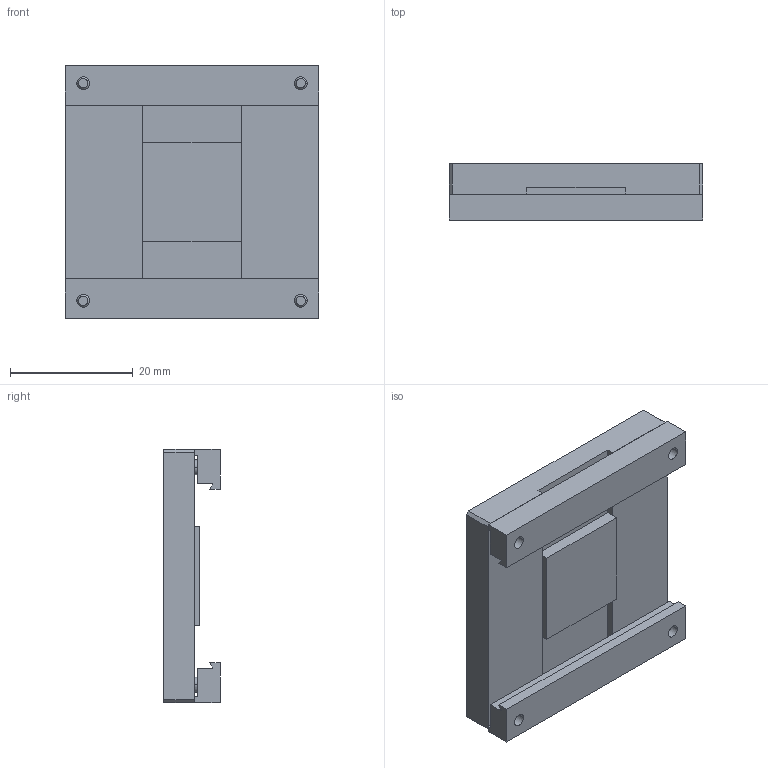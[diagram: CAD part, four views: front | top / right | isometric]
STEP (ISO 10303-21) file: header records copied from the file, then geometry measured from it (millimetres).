
FILE_DESCRIPTION (( 'STEP AP203' ), '1' );
FILE_NAME ('Montageplatte M 30.STEP', '2004-11-26T15:24:02', ( '' ), ( '' ), 'SwSTEP 2.0', 'SolidWorks 2004073', '' );
FILE_SCHEMA (( 'CONFIG_CONTROL_DESIGN' ));
Length unit declared in the file: millimetre
Products named in the file (5): SC-912_M 2,5 x 5; Bestimmplatte-+-D007861_ _PDB_051787; Montageplatte_dL_30-+-D011929_ _PDB_051794; Montageplatte M 30; Klemmleiste_dL_30-+-D028763_ _PDB_051785
Assembly tree (8 placements, depth 2):
  Montageplatte M 30
    SC-912_M 2,5 x 5  x4
    Klemmleiste_dL_30-+-D028763_ _PDB_051785  x2
    Montageplatte_dL_30-+-D011929_ _PDB_051794
    Bestimmplatte-+-D007861_ _PDB_051787
Bounding box: 41.2 x 9.2 x 41.2 mm (x, y, z)
Volume: 10065.1 mm3; surface area: 7528.9 mm2
Topology: 8 solids, 8 shells, 172 faces, 384 edges, 240 vertices
Faces by surface type: plane 108, cylinder 40, cone 16, torus 8
Entity records: 2945 total; most frequent: DIRECTION 424, CARTESIAN_POINT 397, ORIENTED_EDGE 372, EDGE_CURVE 186, AXIS2_PLACEMENT_3D 147, LINE 130, VECTOR 130, VERTEX_POINT 120
